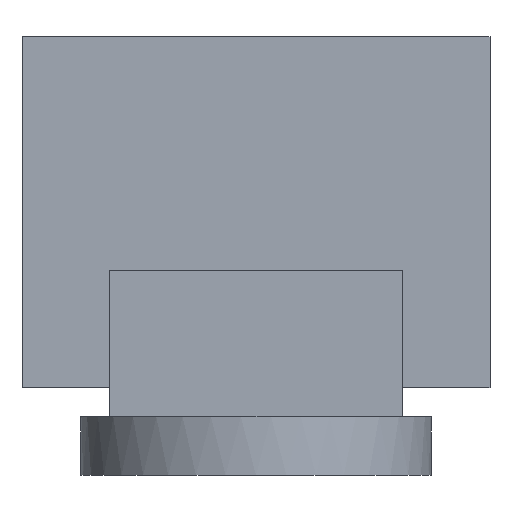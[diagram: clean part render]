
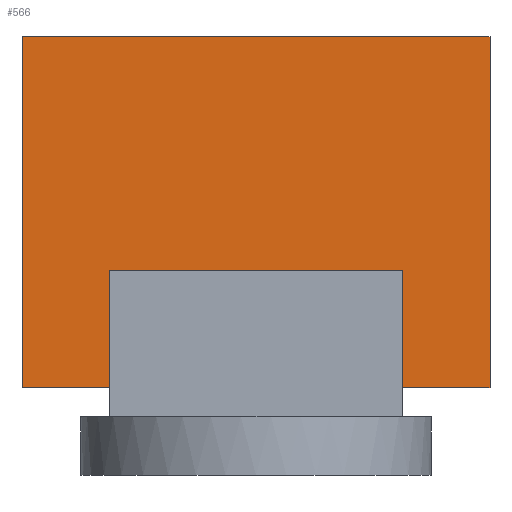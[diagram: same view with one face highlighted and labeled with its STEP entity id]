
A CAD part, left-side view. The second image highlights one B-rep face of the part: STEP entity #566.
In plain terms, the highlighted planar face has unit normal (-1, 0, 0).
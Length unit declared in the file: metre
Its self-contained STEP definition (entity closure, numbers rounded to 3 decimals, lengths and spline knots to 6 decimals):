
#49=FACE_OUTER_BOUND('',#80,.T.);
#80=EDGE_LOOP('',(#413,#414,#415,#416,#417,#418,#419,#420));
#134=LINE('',#874,#199);
#135=LINE('',#876,#200);
#136=LINE('',#878,#201);
#137=LINE('',#880,#202);
#138=LINE('',#882,#203);
#139=LINE('',#884,#204);
#140=LINE('',#886,#205);
#141=LINE('',#887,#206);
#199=VECTOR('',#702,0.01);
#200=VECTOR('',#703,0.01);
#201=VECTOR('',#704,0.01);
#202=VECTOR('',#705,0.01);
#203=VECTOR('',#706,0.01);
#204=VECTOR('',#707,0.01);
#205=VECTOR('',#708,0.01);
#206=VECTOR('',#709,0.01);
#256=VERTEX_POINT('',#872);
#257=VERTEX_POINT('',#873);
#258=VERTEX_POINT('',#875);
#259=VERTEX_POINT('',#877);
#260=VERTEX_POINT('',#879);
#261=VERTEX_POINT('',#881);
#262=VERTEX_POINT('',#883);
#263=VERTEX_POINT('',#885);
#316=EDGE_CURVE('',#256,#257,#134,.T.);
#317=EDGE_CURVE('',#258,#256,#135,.T.);
#318=EDGE_CURVE('',#259,#258,#136,.T.);
#319=EDGE_CURVE('',#259,#260,#137,.T.);
#320=EDGE_CURVE('',#260,#261,#138,.T.);
#321=EDGE_CURVE('',#262,#261,#139,.T.);
#322=EDGE_CURVE('',#263,#262,#140,.T.);
#323=EDGE_CURVE('',#263,#257,#141,.T.);
#413=ORIENTED_EDGE('',*,*,#316,.F.);
#414=ORIENTED_EDGE('',*,*,#317,.F.);
#415=ORIENTED_EDGE('',*,*,#318,.F.);
#416=ORIENTED_EDGE('',*,*,#319,.T.);
#417=ORIENTED_EDGE('',*,*,#320,.T.);
#418=ORIENTED_EDGE('',*,*,#321,.F.);
#419=ORIENTED_EDGE('',*,*,#322,.F.);
#420=ORIENTED_EDGE('',*,*,#323,.T.);
#540=PLANE('',#614);
#566=ADVANCED_FACE('',(#49),#540,.T.);
#614=AXIS2_PLACEMENT_3D('',#871,#700,#701);
#700=DIRECTION('center_axis',(-1.,0.,0.));
#701=DIRECTION('ref_axis',(0.,-1.,0.));
#702=DIRECTION('',(0.,0.,-1.));
#703=DIRECTION('',(0.,1.,0.));
#704=DIRECTION('',(0.,0.,1.));
#705=DIRECTION('',(0.,-1.,0.));
#706=DIRECTION('',(0.,0.,1.));
#707=DIRECTION('',(0.,-1.,0.));
#708=DIRECTION('',(0.,0.,1.));
#709=DIRECTION('',(0.,-1.,0.));
#871=CARTESIAN_POINT('Origin',(0.035,0.04,0.015));
#872=CARTESIAN_POINT('',(0.035,0.025,0.035));
#873=CARTESIAN_POINT('',(0.035,0.025,0.015));
#874=CARTESIAN_POINT('',(0.035,0.025,0.0125));
#875=CARTESIAN_POINT('',(0.035,-0.025,0.035));
#876=CARTESIAN_POINT('',(0.035,0.02,0.035));
#877=CARTESIAN_POINT('',(0.035,-0.025,0.015));
#878=CARTESIAN_POINT('',(0.035,-0.025,0.0125));
#879=CARTESIAN_POINT('',(0.035,-0.04,0.015));
#880=CARTESIAN_POINT('',(0.035,0.04,0.015));
#881=CARTESIAN_POINT('',(0.035,-0.04,0.075));
#882=CARTESIAN_POINT('',(0.035,-0.04,0.015));
#883=CARTESIAN_POINT('',(0.035,0.04,0.075));
#884=CARTESIAN_POINT('',(0.035,0.04,0.075));
#885=CARTESIAN_POINT('',(0.035,0.04,0.015));
#886=CARTESIAN_POINT('',(0.035,0.04,0.015));
#887=CARTESIAN_POINT('',(0.035,0.04,0.015));
